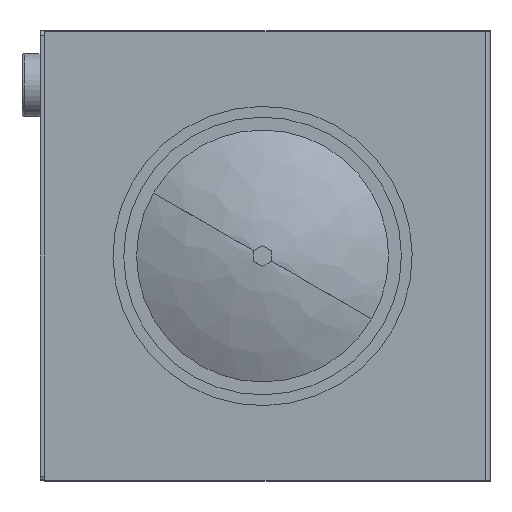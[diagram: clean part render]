
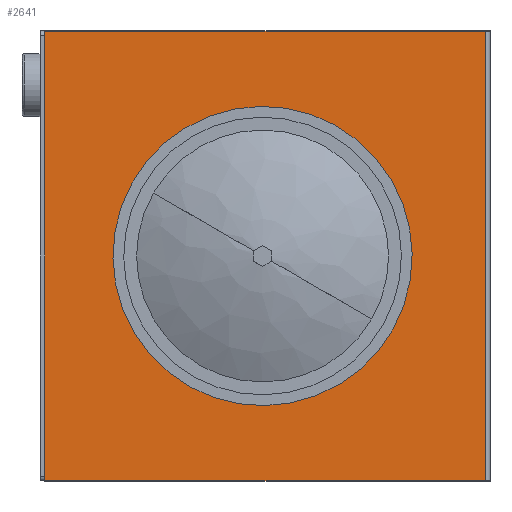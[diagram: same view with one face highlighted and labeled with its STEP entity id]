
A CAD part, left-side view. The second image highlights one B-rep face of the part: STEP entity #2641.
In plain terms, the highlighted planar face has unit normal (-1, 0, 0) as drawn and (1, 0, 0) by its records, which use the part's own axes.
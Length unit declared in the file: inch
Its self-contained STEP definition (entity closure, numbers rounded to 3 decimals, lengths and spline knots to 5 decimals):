
#8 = DIRECTION ( 'NONE',  ( 0., 0., 1. ) ) ;
#291 = CARTESIAN_POINT ( 'NONE',  ( 0., -12.125, 12.5 ) ) ;
#509 = LINE ( 'NONE', #4920, #7969 ) ;
#520 = ORIENTED_EDGE ( 'NONE', *, *, #4005, .F. ) ;
#561 = CARTESIAN_POINT ( 'NONE',  ( 0., 12.375, -12.5 ) ) ;
#692 = VERTEX_POINT ( 'NONE', #8998 ) ;
#755 = DIRECTION ( 'NONE',  ( 1., 0., 0. ) ) ;
#965 = CIRCLE ( 'NONE', #4573, 7. ) ;
#1950 = CARTESIAN_POINT ( 'NONE',  ( 0., -12.375, 12.5 ) ) ;
#1970 = DIRECTION ( 'NONE',  ( 1., 0., 0. ) ) ;
#2124 = EDGE_LOOP ( 'NONE', ( #7939, #520 ) ) ;
#2244 = DIRECTION ( 'NONE',  ( 0., 1., 0. ) ) ;
#2471 = CIRCLE ( 'NONE', #3936, 7. ) ;
#2524 = ORIENTED_EDGE ( 'NONE', *, *, #3012, .T. ) ;
#2616 = CARTESIAN_POINT ( 'NONE',  ( 0., 0., 0. ) ) ;
#2641 = ADVANCED_FACE ( 'NONE', ( #7790, #2936 ), #5440, .F. ) ;
#2643 = DIRECTION ( 'NONE',  ( 0., 0., 1. ) ) ;
#2673 = DIRECTION ( 'NONE',  ( 0., -1., 0. ) ) ;
#2870 = ORIENTED_EDGE ( 'NONE', *, *, #7946, .T. ) ;
#2936 = FACE_OUTER_BOUND ( 'NONE', #7113, .T. ) ;
#2992 = VERTEX_POINT ( 'NONE', #5088 ) ;
#3012 = EDGE_CURVE ( 'NONE', #5850, #5581, #8448, .T. ) ;
#3128 = DIRECTION ( 'NONE',  ( 0., 0., -1. ) ) ;
#3876 = LINE ( 'NONE', #1950, #7389 ) ;
#3883 = EDGE_CURVE ( 'NONE', #2992, #5083, #965, .T. ) ;
#3936 = AXIS2_PLACEMENT_3D ( 'NONE', #4931, #755, #5643 ) ;
#4005 = EDGE_CURVE ( 'NONE', #5083, #2992, #2471, .T. ) ;
#4403 = VERTEX_POINT ( 'NONE', #8049 ) ;
#4573 = AXIS2_PLACEMENT_3D ( 'NONE', #6169, #1970, #6895 ) ;
#4660 = EDGE_CURVE ( 'NONE', #4403, #692, #3876, .T. ) ;
#4691 = AXIS2_PLACEMENT_3D ( 'NONE', #2616, #6869, #2643 ) ;
#4920 = CARTESIAN_POINT ( 'NONE',  ( 0., 12.375, 12.5 ) ) ;
#4931 = CARTESIAN_POINT ( 'NONE',  ( 0., 0.2595, 0. ) ) ;
#5027 = CARTESIAN_POINT ( 'NONE',  ( 0., -12.375, -12.5 ) ) ;
#5080 = VECTOR ( 'NONE', #3128, 39.37008 ) ;
#5083 = VERTEX_POINT ( 'NONE', #6414 ) ;
#5088 = CARTESIAN_POINT ( 'NONE',  ( 0., 0.2595, -7. ) ) ;
#5440 = PLANE ( 'NONE',  #4691 ) ;
#5581 = VERTEX_POINT ( 'NONE', #561 ) ;
#5643 = DIRECTION ( 'NONE',  ( 0., 0., -1. ) ) ;
#5850 = VERTEX_POINT ( 'NONE', #5879 ) ;
#5879 = CARTESIAN_POINT ( 'NONE',  ( 0., -12.125, -12.5 ) ) ;
#6169 = CARTESIAN_POINT ( 'NONE',  ( 0., 0.2595, 0. ) ) ;
#6414 = CARTESIAN_POINT ( 'NONE',  ( 0., 0.2595, 7. ) ) ;
#6869 = DIRECTION ( 'NONE',  ( -1., 0., 0. ) ) ;
#6895 = DIRECTION ( 'NONE',  ( 0., 0., -1. ) ) ;
#6973 = LINE ( 'NONE', #291, #5080 ) ;
#7093 = EDGE_CURVE ( 'NONE', #5581, #4403, #509, .T. ) ;
#7113 = EDGE_LOOP ( 'NONE', ( #2870, #2524, #8529, #8376 ) ) ;
#7389 = VECTOR ( 'NONE', #2673, 39.37008 ) ;
#7562 = VECTOR ( 'NONE', #2244, 39.37008 ) ;
#7790 = FACE_BOUND ( 'NONE', #2124, .T. ) ;
#7939 = ORIENTED_EDGE ( 'NONE', *, *, #3883, .F. ) ;
#7946 = EDGE_CURVE ( 'NONE', #692, #5850, #6973, .T. ) ;
#7969 = VECTOR ( 'NONE', #8, 39.37008 ) ;
#8049 = CARTESIAN_POINT ( 'NONE',  ( 0., 12.375, 12.5 ) ) ;
#8376 = ORIENTED_EDGE ( 'NONE', *, *, #4660, .T. ) ;
#8448 = LINE ( 'NONE', #5027, #7562 ) ;
#8529 = ORIENTED_EDGE ( 'NONE', *, *, #7093, .T. ) ;
#8998 = CARTESIAN_POINT ( 'NONE',  ( 0., -12.125, 12.5 ) ) ;
